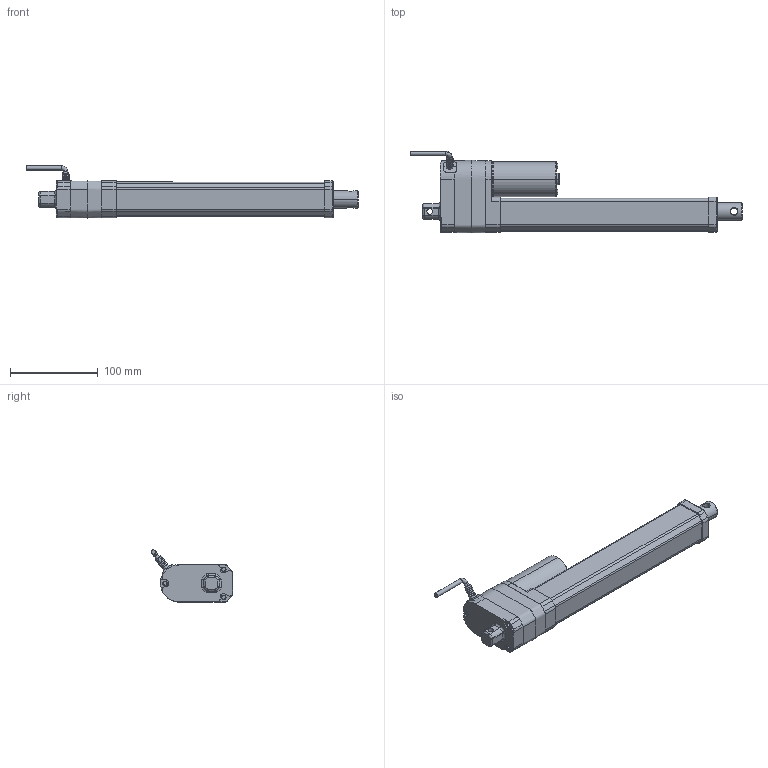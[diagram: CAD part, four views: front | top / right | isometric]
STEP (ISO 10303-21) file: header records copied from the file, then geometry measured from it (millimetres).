
FILE_DESCRIPTION((''),' ');
FILE_NAME('dszy11_200_pot.stp',' ',('r'),('r'),' ','ACIS 14.0',' ');
FILE_SCHEMA(('automotive_design'));
Length unit declared in the file: inch
Products named in the file (3): DSZY11-POT-200
Bounding box: 379.45 x 93.39 x 59.66 mm (x, y, z)
Volume: 395586.7 mm3; surface area: 132677.2 mm2
Topology: 3 solids, 3 shells, 320 faces, 842 edges, 551 vertices
Faces by surface type: cylinder 130, plane 121, torus 32, cone 20, bspline 13, sphere 4
Entity records: 13310 total; most frequent: CARTESIAN_POINT 2632, DIRECTION 1741, ORIENTED_EDGE 1672, EDGE_CURVE 836, AXIS2_PLACEMENT_3D 679, VERTEX_POINT 551, LINE 383, VECTOR 383
